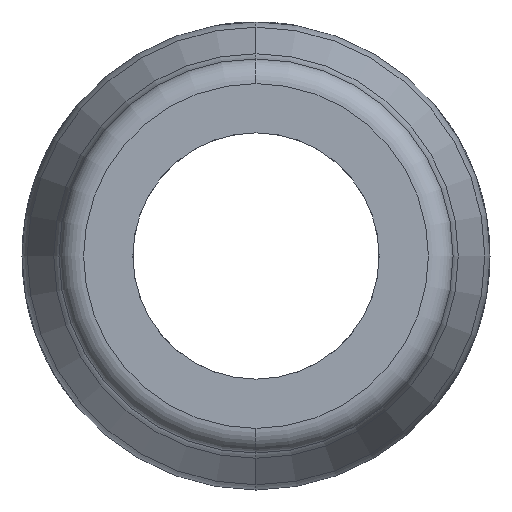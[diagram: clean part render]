
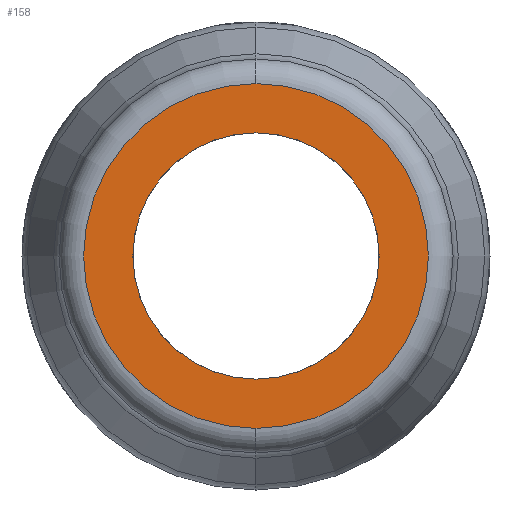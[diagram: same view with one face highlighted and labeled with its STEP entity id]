
A CAD part, left-side view. The second image highlights one B-rep face of the part: STEP entity #158.
In plain terms, the highlighted planar face has unit normal (-1, 0, 0).
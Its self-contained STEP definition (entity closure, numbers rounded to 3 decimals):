
#6 = EDGE_LOOP ( 'NONE', ( #860, #426 ) ) ;
#79 = CIRCLE ( 'NONE', #1458, 14. ) ;
#105 = FACE_BOUND ( 'NONE', #1152, .T. ) ;
#116 = CIRCLE ( 'NONE', #427, 10. ) ;
#142 = VERTEX_POINT ( 'NONE', #977 ) ;
#158 = ADVANCED_FACE ( 'NONE', ( #543, #105 ), #504, .F. ) ;
#220 = DIRECTION ( 'NONE',  ( 0., 0., -1. ) ) ;
#231 = CARTESIAN_POINT ( 'NONE',  ( 0., 0., 0. ) ) ;
#362 = VERTEX_POINT ( 'NONE', #930 ) ;
#378 = CARTESIAN_POINT ( 'NONE',  ( 0., 0., 0. ) ) ;
#388 = DIRECTION ( 'NONE',  ( 0., 0., 1. ) ) ;
#426 = ORIENTED_EDGE ( 'NONE', *, *, #592, .T. ) ;
#427 = AXIS2_PLACEMENT_3D ( 'NONE', #927, #784, #774 ) ;
#442 = EDGE_CURVE ( 'NONE', #948, #142, #1422, .T. ) ;
#504 = PLANE ( 'NONE',  #545 ) ;
#509 = CARTESIAN_POINT ( 'NONE',  ( 0., 10., 0. ) ) ;
#543 = FACE_OUTER_BOUND ( 'NONE', #6, .T. ) ;
#545 = AXIS2_PLACEMENT_3D ( 'NONE', #509, #1220, #220 ) ;
#573 = ORIENTED_EDGE ( 'NONE', *, *, #1495, .F. ) ;
#592 = EDGE_CURVE ( 'NONE', #1665, #362, #79, .T. ) ;
#774 = DIRECTION ( 'NONE',  ( 0., 0., 1. ) ) ;
#784 = DIRECTION ( 'NONE',  ( -1., 0., 0. ) ) ;
#860 = ORIENTED_EDGE ( 'NONE', *, *, #1562, .T. ) ;
#888 = CARTESIAN_POINT ( 'NONE',  ( 0., 0., 14. ) ) ;
#927 = CARTESIAN_POINT ( 'NONE',  ( 0., 0., 0. ) ) ;
#930 = CARTESIAN_POINT ( 'NONE',  ( 0., 0., -14. ) ) ;
#948 = VERTEX_POINT ( 'NONE', #965 ) ;
#960 = DIRECTION ( 'NONE',  ( 0., 0., -1. ) ) ;
#965 = CARTESIAN_POINT ( 'NONE',  ( 0., 0., 10. ) ) ;
#977 = CARTESIAN_POINT ( 'NONE',  ( 0., 0., -10. ) ) ;
#1018 = AXIS2_PLACEMENT_3D ( 'NONE', #1086, #1078, #960 ) ;
#1078 = DIRECTION ( 'NONE',  ( -1., 0., 0. ) ) ;
#1086 = CARTESIAN_POINT ( 'NONE',  ( 0., 0., 0. ) ) ;
#1123 = DIRECTION ( 'NONE',  ( -1., 0., 0. ) ) ;
#1152 = EDGE_LOOP ( 'NONE', ( #1272, #573 ) ) ;
#1220 = DIRECTION ( 'NONE',  ( 1., 0., 0. ) ) ;
#1227 = DIRECTION ( 'NONE',  ( -1., 0., 0. ) ) ;
#1272 = ORIENTED_EDGE ( 'NONE', *, *, #442, .F. ) ;
#1422 = CIRCLE ( 'NONE', #1657, 10. ) ;
#1458 = AXIS2_PLACEMENT_3D ( 'NONE', #378, #1123, #1646 ) ;
#1495 = EDGE_CURVE ( 'NONE', #142, #948, #116, .T. ) ;
#1562 = EDGE_CURVE ( 'NONE', #362, #1665, #1752, .T. ) ;
#1646 = DIRECTION ( 'NONE',  ( 0., 0., -1. ) ) ;
#1657 = AXIS2_PLACEMENT_3D ( 'NONE', #231, #1227, #388 ) ;
#1665 = VERTEX_POINT ( 'NONE', #888 ) ;
#1752 = CIRCLE ( 'NONE', #1018, 14. ) ;
